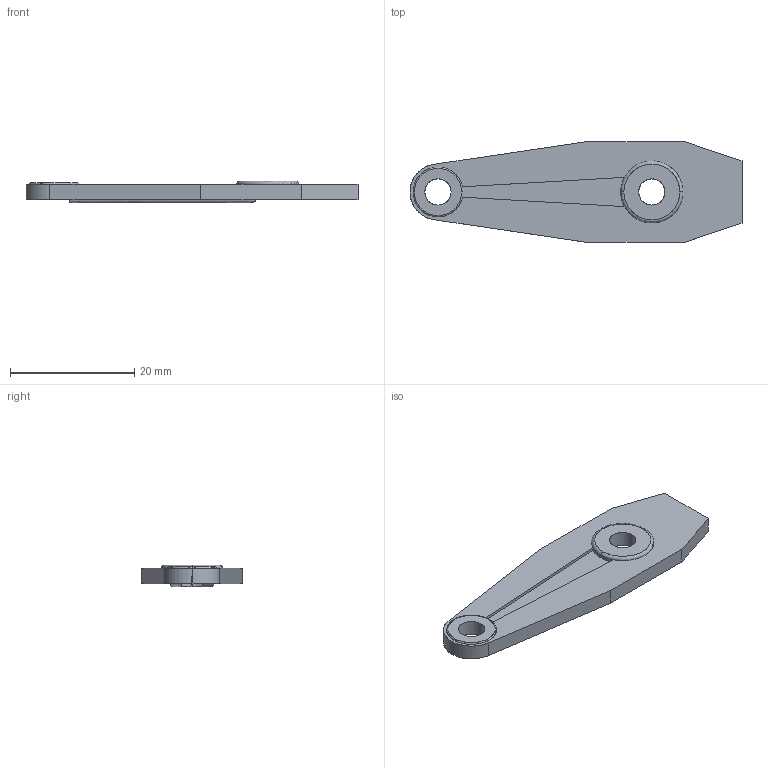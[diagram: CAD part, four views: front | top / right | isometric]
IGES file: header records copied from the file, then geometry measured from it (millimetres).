
Start section: SolidWorks IGES FILE using analytic representation for surfaces
Global section: file name: C:\Documents and Settings\lecoutey\Bureau\GO 71\47.030.00.IGS; native system: SolidWorks 2004 by SolidWorks Corporation; preprocessor: Version 5.3; author: lecoutey; date: 050329.115934; units: millimetre
Bounding box: 53.4 x 16.1 x 3.5 mm (x, y, z)
Surface area: 1817.4 mm2 (no closed solid volume)
Topology: 0 solids, 0 shells, 36 faces, 597 edges, 597 vertices
Faces by surface type: bspline 21, revolution 15
